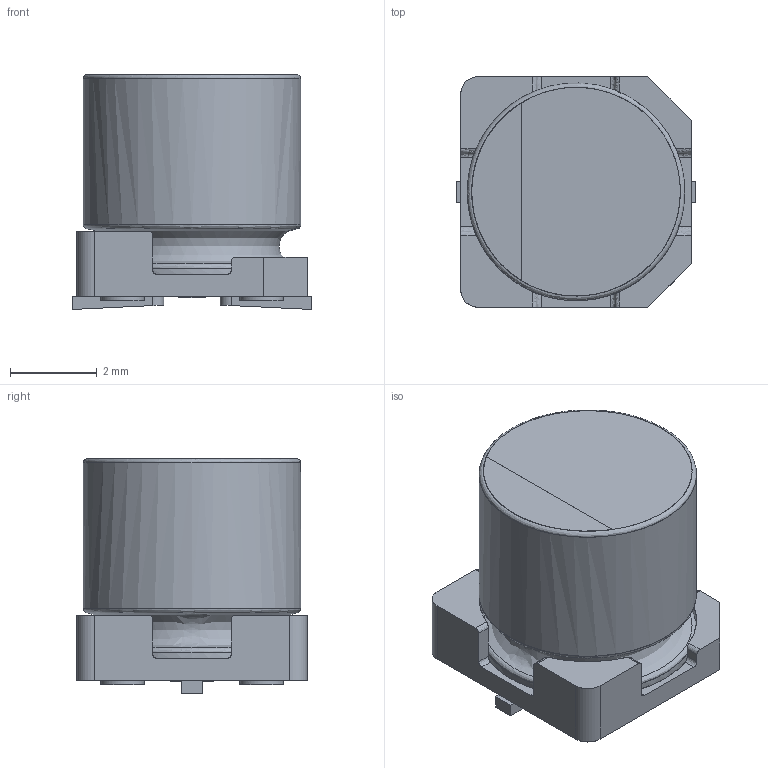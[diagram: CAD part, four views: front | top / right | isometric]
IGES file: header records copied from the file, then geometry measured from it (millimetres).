
Start section: JAMA-IS VERSION  1.0
Bounding box: 5.5 x 5.3 x 5.4 mm (x, y, z)
Surface area: 212 mm2 (no closed solid volume)
Topology: 0 solids, 0 shells, 81 faces, 944 edges, 926 vertices
Faces by surface type: bspline 81
